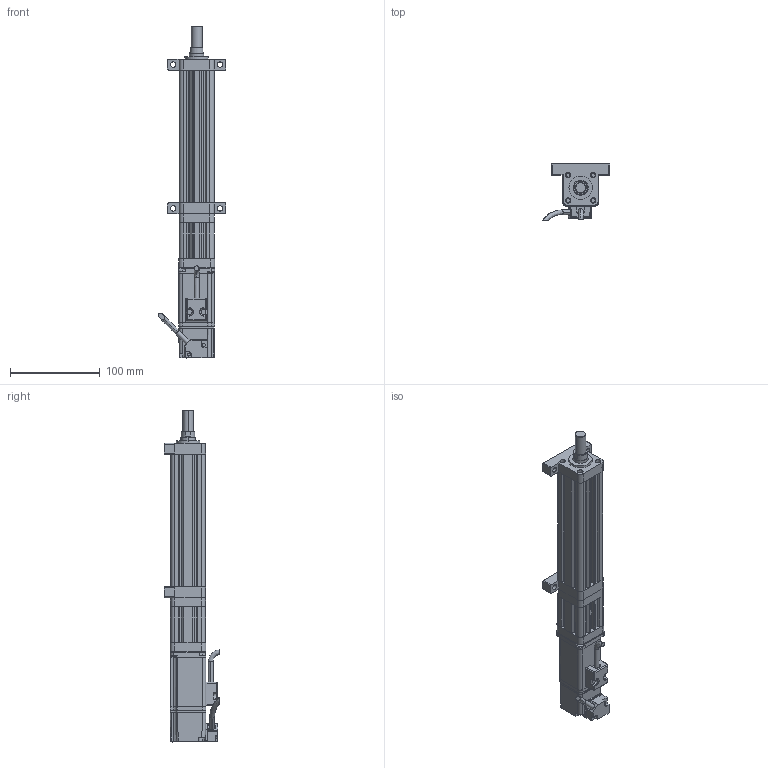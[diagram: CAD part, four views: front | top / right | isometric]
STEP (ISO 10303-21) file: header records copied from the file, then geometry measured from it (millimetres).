
FILE_DESCRIPTION (( 'STEP AP214' ), '1' );
FILE_NAME ('039-S100-D02-A-M2-C1-2.STEP', '2021-03-02T05:33:19', ( '' ), ( '' ), 'SwSTEP 2.0', 'SolidWorks 2018', '' );
FILE_SCHEMA (( 'AUTOMOTIVE_DESIGN' ));
Length unit declared in the file: millimetre
Products named in the file (9): CMC039-GT; CMC039-HDB; CMC039-DJZ; CMC039-DT; CMC039-ZLLJB; ECMA-CX0401ES-40框號系列機種-100W低慣量系列; CMC039-QDB; CMC039-AZB; 039-S100-D02-A-M2-C1-2
Assembly tree (8 placements, depth 2):
  039-S100-D02-A-M2-C1-2
    CMC039-GT
    CMC039-DT
    CMC039-ZLLJB
    CMC039-DJZ
    ECMA-CX0401ES-40框號系列機種-100W低慣量系列
    CMC039-AZB
    CMC039-HDB
    CMC039-QDB
Bounding box: 75.34 x 61.89 x 369.6 mm (x, y, z)
Volume: 404477.6 mm3; surface area: 121209.3 mm2
Topology: 8 solids, 16 shells, 738 faces, 1946 edges, 1225 vertices
Faces by surface type: cylinder 308, plane 307, bspline 84, cone 39
Entity records: 29028 total; most frequent: CARTESIAN_POINT 11402, ORIENTED_EDGE 3826, DIRECTION 3171, EDGE_CURVE 1913, VERTEX_POINT 1225, AXIS2_PLACEMENT_3D 1081, VECTOR 1009, LINE 1009
